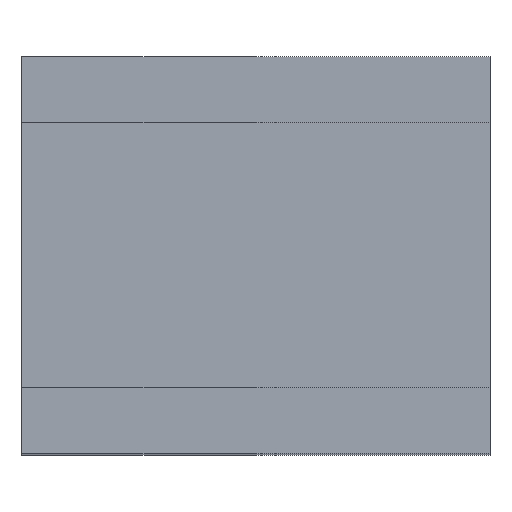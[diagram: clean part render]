
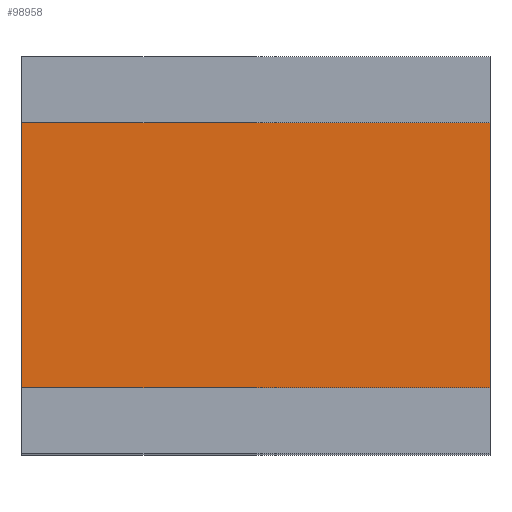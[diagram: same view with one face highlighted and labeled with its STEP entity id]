
A CAD part, top view. The second image highlights one B-rep face of the part: STEP entity #98958.
In plain terms, the highlighted planar face has unit normal (0, 0, 1).
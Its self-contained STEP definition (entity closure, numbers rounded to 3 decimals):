
#6338=FACE_OUTER_BOUND('',#12630,.T.);
#12630=EDGE_LOOP('',(#89935,#89936,#89937,#89938));
#26298=LINE('',#153294,#39974);
#26302=LINE('',#153301,#39978);
#26304=LINE('',#153306,#39980);
#26306=LINE('',#153309,#39982);
#39974=VECTOR('',#126174,10.);
#39978=VECTOR('',#126182,10.);
#39980=VECTOR('',#126188,10.);
#39982=VECTOR('',#126192,10.);
#48907=VERTEX_POINT('',#153291);
#48908=VERTEX_POINT('',#153293);
#48909=VERTEX_POINT('',#153299);
#48910=VERTEX_POINT('',#153305);
#62578=EDGE_CURVE('',#48908,#48907,#26298,.T.);
#62582=EDGE_CURVE('',#48907,#48909,#26302,.T.);
#62584=EDGE_CURVE('',#48910,#48908,#26304,.T.);
#62586=EDGE_CURVE('',#48909,#48910,#26306,.T.);
#89935=ORIENTED_EDGE('',*,*,#62578,.T.);
#89936=ORIENTED_EDGE('',*,*,#62582,.T.);
#89937=ORIENTED_EDGE('',*,*,#62586,.T.);
#89938=ORIENTED_EDGE('',*,*,#62584,.T.);
#94448=PLANE('',#103498);
#98958=ADVANCED_FACE('',(#6338),#94448,.T.);
#103498=AXIS2_PLACEMENT_3D('',#153311,#126195,#126196);
#126174=DIRECTION('',(-1.,0.,0.));
#126182=DIRECTION('',(0.,-1.,0.));
#126188=DIRECTION('',(0.,1.,0.));
#126192=DIRECTION('',(1.,0.,0.));
#126195=DIRECTION('center_axis',(0.,0.,1.));
#126196=DIRECTION('ref_axis',(1.,0.,0.));
#153291=CARTESIAN_POINT('',(-266.173,150.923,210.));
#153293=CARTESIAN_POINT('',(266.173,150.923,210.));
#153294=CARTESIAN_POINT('',(266.173,150.923,210.));
#153299=CARTESIAN_POINT('',(-266.173,-150.923,210.));
#153301=CARTESIAN_POINT('',(-266.173,150.923,210.));
#153305=CARTESIAN_POINT('',(266.173,-150.923,210.));
#153306=CARTESIAN_POINT('',(266.173,-150.923,210.));
#153309=CARTESIAN_POINT('',(-266.173,-150.923,210.));
#153311=CARTESIAN_POINT('Origin',(0.,0.,210.));
